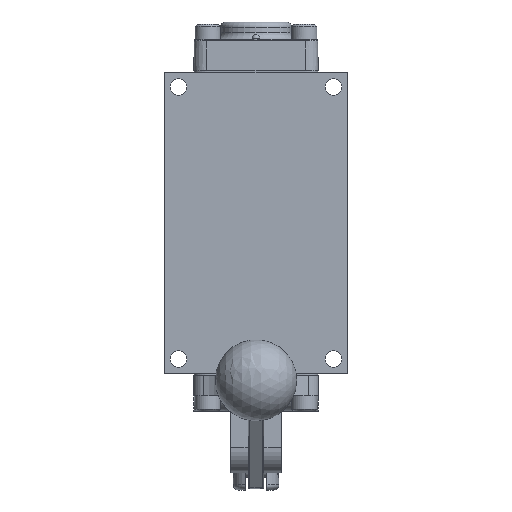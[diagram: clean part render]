
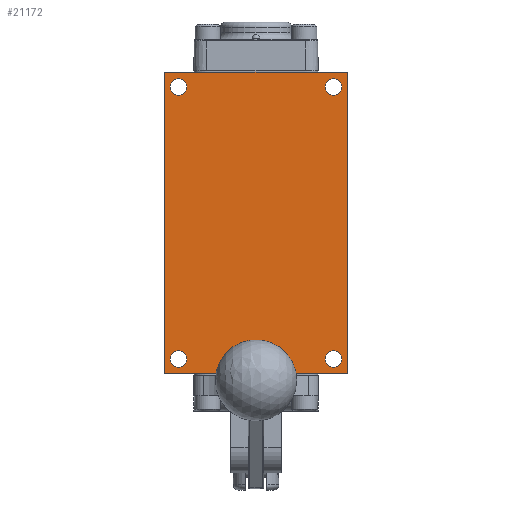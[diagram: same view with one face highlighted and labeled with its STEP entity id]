
A CAD part, front view. The second image highlights one B-rep face of the part: STEP entity #21172.
In plain terms, the highlighted planar face has unit normal (0, -1, 0).
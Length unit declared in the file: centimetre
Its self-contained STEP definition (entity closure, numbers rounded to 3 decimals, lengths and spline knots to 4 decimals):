
#1337=FACE_BOUND('',#3316,.T.);
#1338=FACE_BOUND('',#3317,.T.);
#1339=FACE_BOUND('',#3318,.T.);
#1340=FACE_BOUND('',#3319,.T.);
#2030=FACE_OUTER_BOUND('',#3315,.T.);
#3315=EDGE_LOOP('',(#15846,#15847,#15848,#15849));
#3316=EDGE_LOOP('',(#15850));
#3317=EDGE_LOOP('',(#15851));
#3318=EDGE_LOOP('',(#15852));
#3319=EDGE_LOOP('',(#15853));
#4592=CIRCLE('',#23027,0.2578);
#4593=CIRCLE('',#23028,0.2578);
#4594=CIRCLE('',#23029,0.2578);
#4595=CIRCLE('',#23030,0.2578);
#5615=LINE('',#35250,#7133);
#5616=LINE('',#35252,#7134);
#5617=LINE('',#35254,#7135);
#5618=LINE('',#35255,#7136);
#7133=VECTOR('',#26945,1.);
#7134=VECTOR('',#26946,1.);
#7135=VECTOR('',#26947,1.);
#7136=VECTOR('',#26948,1.);
#8947=VERTEX_POINT('',#35248);
#8948=VERTEX_POINT('',#35249);
#8949=VERTEX_POINT('',#35251);
#8950=VERTEX_POINT('',#35253);
#8951=VERTEX_POINT('',#35256);
#8952=VERTEX_POINT('',#35258);
#8953=VERTEX_POINT('',#35260);
#8954=VERTEX_POINT('',#35262);
#11416=EDGE_CURVE('',#8947,#8948,#5615,.T.);
#11417=EDGE_CURVE('',#8949,#8947,#5616,.T.);
#11418=EDGE_CURVE('',#8950,#8949,#5617,.T.);
#11419=EDGE_CURVE('',#8948,#8950,#5618,.T.);
#11420=EDGE_CURVE('',#8951,#8951,#4592,.T.);
#11421=EDGE_CURVE('',#8952,#8952,#4593,.T.);
#11422=EDGE_CURVE('',#8953,#8953,#4594,.T.);
#11423=EDGE_CURVE('',#8954,#8954,#4595,.T.);
#15846=ORIENTED_EDGE('',*,*,#11416,.F.);
#15847=ORIENTED_EDGE('',*,*,#11417,.F.);
#15848=ORIENTED_EDGE('',*,*,#11418,.F.);
#15849=ORIENTED_EDGE('',*,*,#11419,.F.);
#15850=ORIENTED_EDGE('',*,*,#11420,.T.);
#15851=ORIENTED_EDGE('',*,*,#11421,.T.);
#15852=ORIENTED_EDGE('',*,*,#11422,.T.);
#15853=ORIENTED_EDGE('',*,*,#11423,.T.);
#19061=PLANE('',#23026);
#21172=ADVANCED_FACE('',(#2030,#1337,#1338,#1339,#1340),#19061,.F.);
#23026=AXIS2_PLACEMENT_3D('',#35247,#26943,#26944);
#23027=AXIS2_PLACEMENT_3D('',#35257,#26949,#26950);
#23028=AXIS2_PLACEMENT_3D('',#35259,#26951,#26952);
#23029=AXIS2_PLACEMENT_3D('',#35261,#26953,#26954);
#23030=AXIS2_PLACEMENT_3D('',#35263,#26955,#26956);
#26943=DIRECTION('center_axis',(0.,1.,0.));
#26944=DIRECTION('ref_axis',(0.,0.,1.));
#26945=DIRECTION('',(0.,0.,1.));
#26946=DIRECTION('',(-1.,0.,0.));
#26947=DIRECTION('',(0.,0.,-1.));
#26948=DIRECTION('',(1.,0.,0.));
#26949=DIRECTION('center_axis',(0.,1.,0.));
#26950=DIRECTION('ref_axis',(-1.,0.,0.));
#26951=DIRECTION('center_axis',(0.,1.,0.));
#26952=DIRECTION('ref_axis',(-1.,0.,0.));
#26953=DIRECTION('center_axis',(0.,1.,0.));
#26954=DIRECTION('ref_axis',(-1.,0.,0.));
#26955=DIRECTION('center_axis',(0.,1.,0.));
#26956=DIRECTION('ref_axis',(-1.,0.,0.));
#35247=CARTESIAN_POINT('Origin',(0.,-1.6358,0.));
#35248=CARTESIAN_POINT('',(-2.8575,-1.6358,-4.7104));
#35249=CARTESIAN_POINT('',(-2.8575,-1.6358,4.7104));
#35250=CARTESIAN_POINT('',(-2.8575,-1.6358,-4.7104));
#35251=CARTESIAN_POINT('',(2.8575,-1.6358,-4.7104));
#35252=CARTESIAN_POINT('',(2.8575,-1.6358,-4.7104));
#35253=CARTESIAN_POINT('',(2.8575,-1.6358,4.7104));
#35254=CARTESIAN_POINT('',(2.8575,-1.6358,4.7104));
#35255=CARTESIAN_POINT('',(-2.8575,-1.6358,4.7104));
#35256=CARTESIAN_POINT('',(-2.1628,-1.6358,-4.2469));
#35257=CARTESIAN_POINT('Origin',(-2.4206,-1.6358,-4.2469));
#35258=CARTESIAN_POINT('',(-2.1628,-1.6358,4.2469));
#35259=CARTESIAN_POINT('Origin',(-2.4206,-1.6358,4.2469));
#35260=CARTESIAN_POINT('',(2.6784,-1.6358,-4.2469));
#35261=CARTESIAN_POINT('Origin',(2.4206,-1.6358,-4.2469));
#35262=CARTESIAN_POINT('',(2.6784,-1.6358,4.2469));
#35263=CARTESIAN_POINT('Origin',(2.4206,-1.6358,4.2469));
